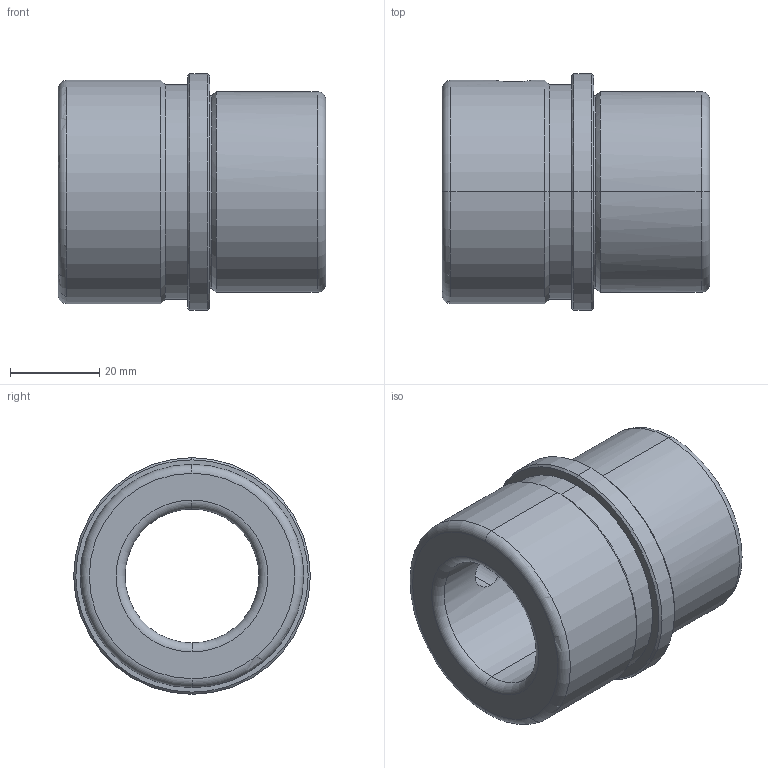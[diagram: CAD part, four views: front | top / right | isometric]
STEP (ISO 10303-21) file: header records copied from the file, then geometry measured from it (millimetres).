
FILE_DESCRIPTION(('CATIA V5 STEP Exchange'),'2;1');
FILE_NAME('C:\Users\Utente\Desktop\IO LAVORO\3D X SITO CF\X SITO\CF 641\CF 641 30 x 60.stp','2020-12-26T14:46:10+00:00',('none'),('none'),'CATIA Version 5 Release 20 GA (IN-10)','CATIA V5 STEP AP203','none');
FILE_SCHEMA(('CONFIG_CONTROL_DESIGN'));
Length unit declared in the file: millimetre
Products named in the file (1): CF 641 30 x 60
Bounding box: 60 x 53 x 53 mm (x, y, z)
Volume: 64653.9 mm3; surface area: 17925.1 mm2
Topology: 1 solids, 1 shells, 37 faces, 126 edges, 94 vertices
Faces by surface type: cylinder 14, cone 10, torus 8, plane 5
Entity records: 1642 total; most frequent: CARTESIAN_POINT 514, ORIENTED_EDGE 252, DIRECTION 178, EDGE_CURVE 126, AXIS2_PLACEMENT_3D 118, VERTEX_POINT 94, CIRCLE 80, EDGE_LOOP 44
